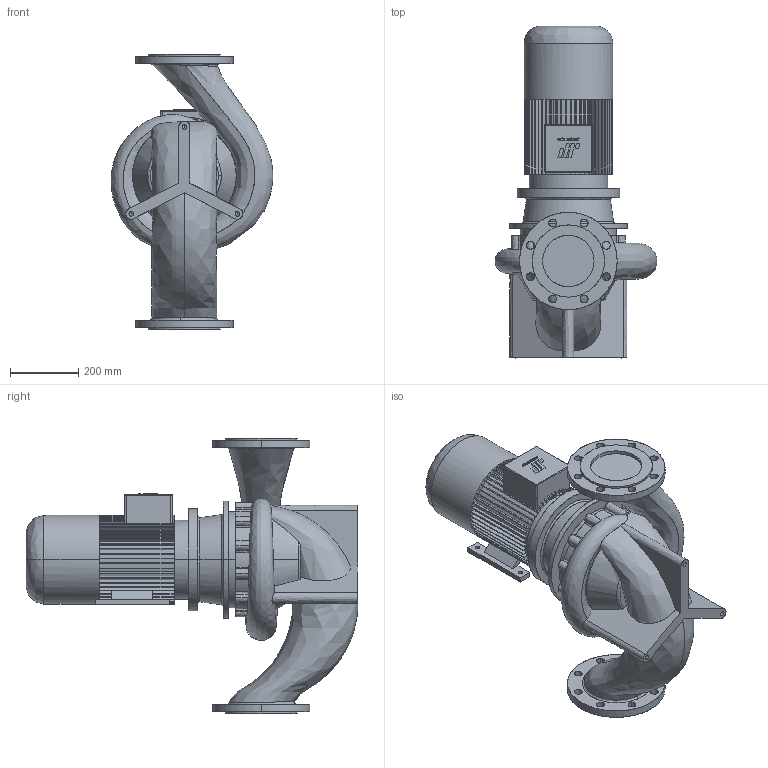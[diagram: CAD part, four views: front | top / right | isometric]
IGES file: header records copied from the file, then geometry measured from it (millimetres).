
Start section: CombiLine
Global section: file name: CLB_125A-250_IEC132M_ND10.igs; native system:  By UGS Corp.; preprocessor: XPlus GENERIC/IGES 3.0; author: Stageplaats; organization: Johnson Pump Water B.V.; date: 20070718.100055; units: millimetre
Bounding box: 473.14 x 969.5 x 805 mm (x, y, z)
Surface area: 2234585.7 mm2 (no closed solid volume)
Topology: 0 solids, 0 shells, 622 faces, 3798 edges, 3792 vertices
Faces by surface type: bspline 622
